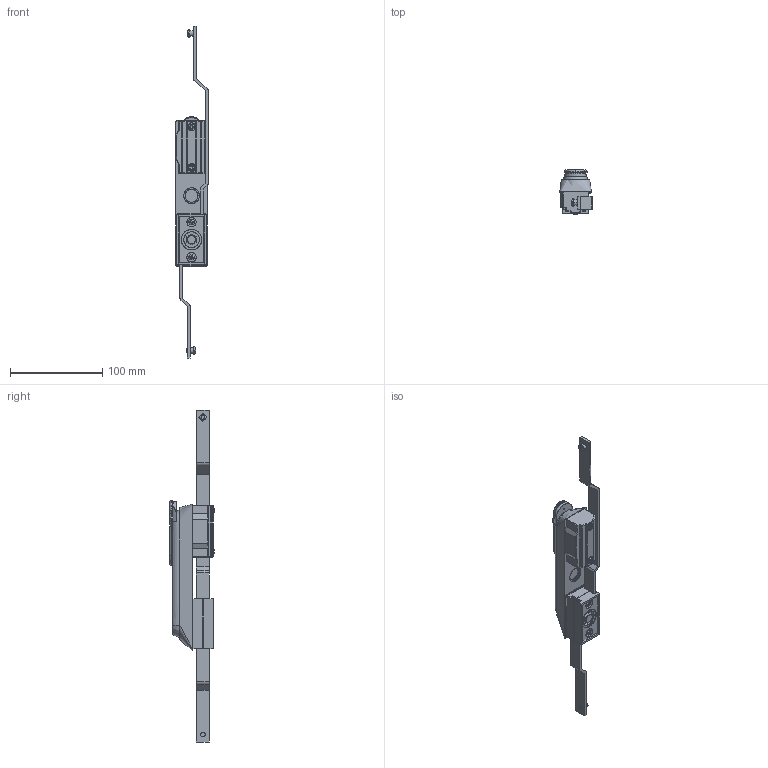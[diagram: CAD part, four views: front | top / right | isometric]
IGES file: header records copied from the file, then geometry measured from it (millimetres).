
Start section: SolidWorks IGES file using analytic representation for surfaces
Global section: file name: D:\尚坤工业图纸\SK1--门锁系列\SK1-080\SK1-080.IGS; native system: SolidWorks 2015; preprocessor: SolidWorks 2015; author: admin; date: 181101.104113; units: millimetre
Bounding box: 35 x 47.98 x 359 mm (x, y, z)
Surface area: 47855.2 mm2 (no closed solid volume)
Topology: 0 solids, 0 shells, 541 faces, 7179 edges, 7162 vertices
Faces by surface type: bspline 284, revolution 257
